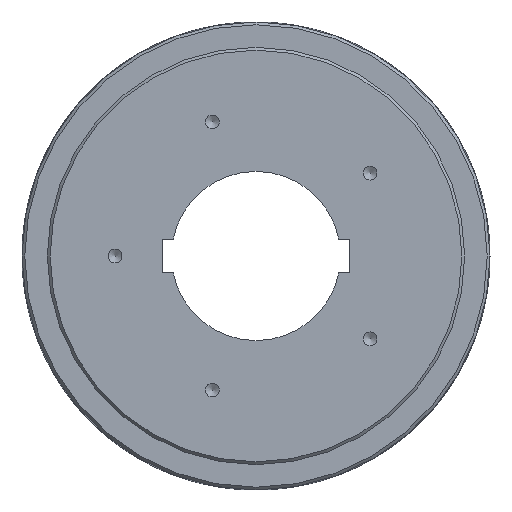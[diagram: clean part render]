
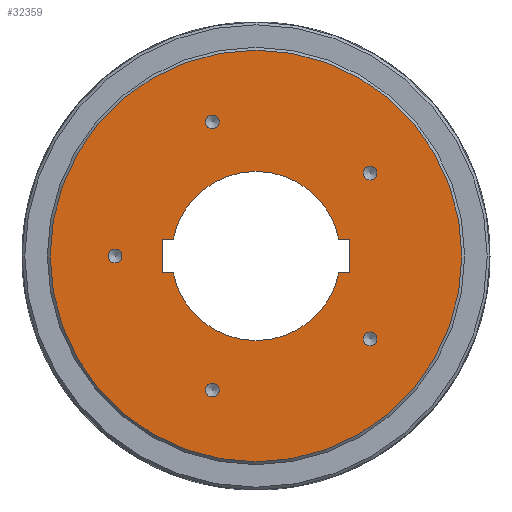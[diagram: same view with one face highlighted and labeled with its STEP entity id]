
A CAD part, left-side view. The second image highlights one B-rep face of the part: STEP entity #32359.
In plain terms, the highlighted planar face has unit normal (-1, 0, 0).
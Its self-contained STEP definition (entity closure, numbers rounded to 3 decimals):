
#2168=FACE_BOUND('',#5532,.T.);
#2169=FACE_BOUND('',#5533,.T.);
#2170=FACE_BOUND('',#5534,.T.);
#2171=FACE_BOUND('',#5535,.T.);
#2172=FACE_BOUND('',#5536,.T.);
#2173=FACE_BOUND('',#5537,.T.);
#2212=PLANE('',#34144);
#3812=FACE_OUTER_BOUND('',#5531,.T.);
#5531=EDGE_LOOP('',(#20653));
#5532=EDGE_LOOP('',(#20654));
#5533=EDGE_LOOP('',(#20655));
#5534=EDGE_LOOP('',(#20656));
#5535=EDGE_LOOP('',(#20657));
#5536=EDGE_LOOP('',(#20658));
#5537=EDGE_LOOP('',(#20659,#20660,#20661,#20662,#20663,#20664,#20665,#20666));
#7274=CIRCLE('',#34118,2.459);
#7276=CIRCLE('',#34122,2.459);
#7278=CIRCLE('',#34126,2.459);
#7280=CIRCLE('',#34130,2.459);
#7282=CIRCLE('',#34134,2.459);
#7285=CIRCLE('',#34139,73.);
#7286=CIRCLE('',#34141,30.);
#7287=CIRCLE('',#34143,30.);
#8273=LINE('',#50555,#10169);
#8274=LINE('',#50557,#10170);
#8275=LINE('',#50558,#10171);
#8276=LINE('',#50560,#10172);
#8277=LINE('',#50562,#10173);
#8278=LINE('',#50563,#10174);
#10169=VECTOR('',#39003,10.);
#10170=VECTOR('',#39004,10.);
#10171=VECTOR('',#39005,10.);
#10172=VECTOR('',#39006,10.);
#10173=VECTOR('',#39007,10.);
#10174=VECTOR('',#39008,10.);
#12177=VERTEX_POINT('',#50491);
#12180=VERTEX_POINT('',#50500);
#12183=VERTEX_POINT('',#50509);
#12186=VERTEX_POINT('',#50518);
#12189=VERTEX_POINT('',#50527);
#12193=VERTEX_POINT('',#50538);
#12194=VERTEX_POINT('',#50542);
#12195=VERTEX_POINT('',#50544);
#12196=VERTEX_POINT('',#50548);
#12197=VERTEX_POINT('',#50550);
#12198=VERTEX_POINT('',#50554);
#12199=VERTEX_POINT('',#50556);
#12200=VERTEX_POINT('',#50559);
#12201=VERTEX_POINT('',#50561);
#15539=EDGE_CURVE('',#12177,#12177,#7274,.T.);
#15543=EDGE_CURVE('',#12180,#12180,#7276,.T.);
#15547=EDGE_CURVE('',#12183,#12183,#7278,.T.);
#15551=EDGE_CURVE('',#12186,#12186,#7280,.T.);
#15555=EDGE_CURVE('',#12189,#12189,#7282,.T.);
#15561=EDGE_CURVE('',#12193,#12193,#7285,.T.);
#15563=EDGE_CURVE('',#12195,#12194,#7286,.T.);
#15567=EDGE_CURVE('',#12196,#12197,#7287,.T.);
#15568=EDGE_CURVE('',#12194,#12198,#8273,.T.);
#15569=EDGE_CURVE('',#12198,#12199,#8274,.T.);
#15570=EDGE_CURVE('',#12199,#12196,#8275,.T.);
#15571=EDGE_CURVE('',#12197,#12200,#8276,.T.);
#15572=EDGE_CURVE('',#12200,#12201,#8277,.T.);
#15573=EDGE_CURVE('',#12201,#12195,#8278,.T.);
#20653=ORIENTED_EDGE('',*,*,#15561,.F.);
#20654=ORIENTED_EDGE('',*,*,#15555,.T.);
#20655=ORIENTED_EDGE('',*,*,#15551,.T.);
#20656=ORIENTED_EDGE('',*,*,#15547,.T.);
#20657=ORIENTED_EDGE('',*,*,#15543,.T.);
#20658=ORIENTED_EDGE('',*,*,#15539,.T.);
#20659=ORIENTED_EDGE('',*,*,#15568,.T.);
#20660=ORIENTED_EDGE('',*,*,#15569,.T.);
#20661=ORIENTED_EDGE('',*,*,#15570,.T.);
#20662=ORIENTED_EDGE('',*,*,#15567,.T.);
#20663=ORIENTED_EDGE('',*,*,#15571,.T.);
#20664=ORIENTED_EDGE('',*,*,#15572,.T.);
#20665=ORIENTED_EDGE('',*,*,#15573,.T.);
#20666=ORIENTED_EDGE('',*,*,#15563,.T.);
#32359=ADVANCED_FACE('',(#3812,#2168,#2169,#2170,#2171,#2172,#2173),#2212,
 .T.);
#34118=AXIS2_PLACEMENT_3D('',#50492,#38934,#38935);
#34122=AXIS2_PLACEMENT_3D('',#50501,#38944,#38945);
#34126=AXIS2_PLACEMENT_3D('',#50510,#38954,#38955);
#34130=AXIS2_PLACEMENT_3D('',#50519,#38964,#38965);
#34134=AXIS2_PLACEMENT_3D('',#50528,#38974,#38975);
#34139=AXIS2_PLACEMENT_3D('',#50540,#38987,#38988);
#34141=AXIS2_PLACEMENT_3D('',#50545,#38992,#38993);
#34143=AXIS2_PLACEMENT_3D('',#50552,#38999,#39000);
#34144=AXIS2_PLACEMENT_3D('',#50553,#39001,#39002);
#38934=DIRECTION('center_axis',(1.,0.,0.));
#38935=DIRECTION('ref_axis',(0.,0.,1.));
#38944=DIRECTION('center_axis',(1.,0.,0.));
#38945=DIRECTION('ref_axis',(0.,0.,1.));
#38954=DIRECTION('center_axis',(1.,0.,0.));
#38955=DIRECTION('ref_axis',(0.,0.,1.));
#38964=DIRECTION('center_axis',(1.,0.,0.));
#38965=DIRECTION('ref_axis',(0.,0.,1.));
#38974=DIRECTION('center_axis',(1.,0.,0.));
#38975=DIRECTION('ref_axis',(0.,0.,1.));
#38987=DIRECTION('center_axis',(1.,0.,0.));
#38988=DIRECTION('ref_axis',(0.,-1.,0.));
#38992=DIRECTION('center_axis',(1.,0.,0.));
#38993=DIRECTION('ref_axis',(0.,1.,0.));
#38999=DIRECTION('center_axis',(1.,0.,0.));
#39000=DIRECTION('ref_axis',(0.,1.,0.));
#39001=DIRECTION('center_axis',(-1.,0.,0.));
#39002=DIRECTION('ref_axis',(0.,0.,1.));
#39003=DIRECTION('',(0.,-1.,0.));
#39004=DIRECTION('',(0.,0.,-1.));
#39005=DIRECTION('',(0.,1.,0.));
#39006=DIRECTION('',(0.,1.,0.));
#39007=DIRECTION('',(0.,0.,1.));
#39008=DIRECTION('',(0.,-1.,0.));
#50491=CARTESIAN_POINT('',(-17.5,50.,-2.459));
#50492=CARTESIAN_POINT('Origin',(-17.5,50.,0.));
#50500=CARTESIAN_POINT('',(-17.5,15.451,-50.011));
#50501=CARTESIAN_POINT('Origin',(-17.5,15.451,-47.553));
#50509=CARTESIAN_POINT('',(-17.5,-40.451,-31.848));
#50510=CARTESIAN_POINT('Origin',(-17.5,-40.451,-29.389));
#50518=CARTESIAN_POINT('',(-17.5,-40.451,26.931));
#50519=CARTESIAN_POINT('Origin',(-17.5,-40.451,29.389));
#50527=CARTESIAN_POINT('',(-17.5,15.451,45.094));
#50528=CARTESIAN_POINT('Origin',(-17.5,15.451,47.553));
#50538=CARTESIAN_POINT('',(-17.5,73.,0.));
#50540=CARTESIAN_POINT('Origin',(-17.5,0.,0.));
#50542=CARTESIAN_POINT('',(-17.5,-29.394,6.));
#50544=CARTESIAN_POINT('',(-17.5,29.394,6.));
#50545=CARTESIAN_POINT('Origin',(-17.5,0.,0.));
#50548=CARTESIAN_POINT('',(-17.5,-29.394,-6.));
#50550=CARTESIAN_POINT('',(-17.5,29.394,-6.));
#50552=CARTESIAN_POINT('Origin',(-17.5,0.,0.));
#50553=CARTESIAN_POINT('Origin',(-17.5,52.,0.));
#50554=CARTESIAN_POINT('',(-17.5,-33.3,6.));
#50555=CARTESIAN_POINT('',(-17.5,42.65,6.));
#50556=CARTESIAN_POINT('',(-17.5,-33.3,-6.));
#50557=CARTESIAN_POINT('',(-17.5,-33.3,3.));
#50558=CARTESIAN_POINT('',(-17.5,9.35,-6.));
#50559=CARTESIAN_POINT('',(-17.5,33.3,-6.));
#50560=CARTESIAN_POINT('',(-17.5,9.35,-6.));
#50561=CARTESIAN_POINT('',(-17.5,33.3,6.));
#50562=CARTESIAN_POINT('',(-17.5,33.3,-3.));
#50563=CARTESIAN_POINT('',(-17.5,42.65,6.));
